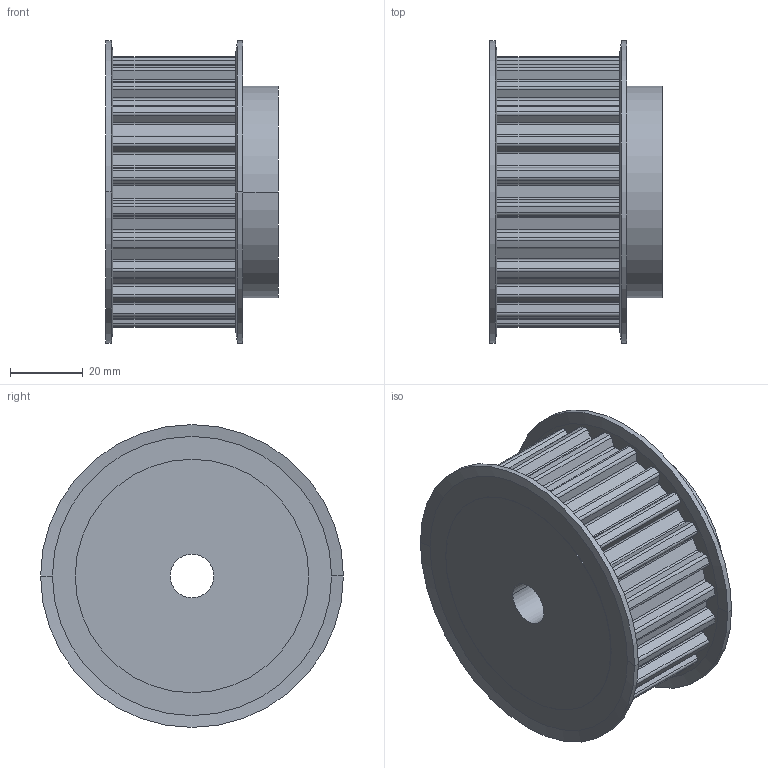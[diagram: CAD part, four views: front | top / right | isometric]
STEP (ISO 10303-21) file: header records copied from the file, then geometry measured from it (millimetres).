
FILE_DESCRIPTION( ( '' ), '1' );
FILE_NAME( 'C:/Users/Stangenbergd/Documents/CAD_Step/1/16442400.stp', '2021-10-19T08:57:20', ( '' ), ( '' ), ' ', ' ', ' ' );
FILE_SCHEMA( ( 'CONFIG_CONTROL_DESIGN' ) );
Length unit declared in the file: millimetre
Products named in the file (1): 1
Bounding box: 47.31 x 83 x 83 mm (x, y, z)
Volume: 170564.1 mm3; surface area: 29133.2 mm2
Topology: 1 solids, 1 shells, 219 faces, 628 edges, 416 vertices
Faces by surface type: cylinder 132, plane 79, cone 8
Entity records: 7318 total; most frequent: DIRECTION 1340, CARTESIAN_POINT 1264, ORIENTED_EDGE 1256, EDGE_CURVE 628, AXIS2_PLACEMENT_3D 492, VERTEX_POINT 416, LINE 356, VECTOR 356
